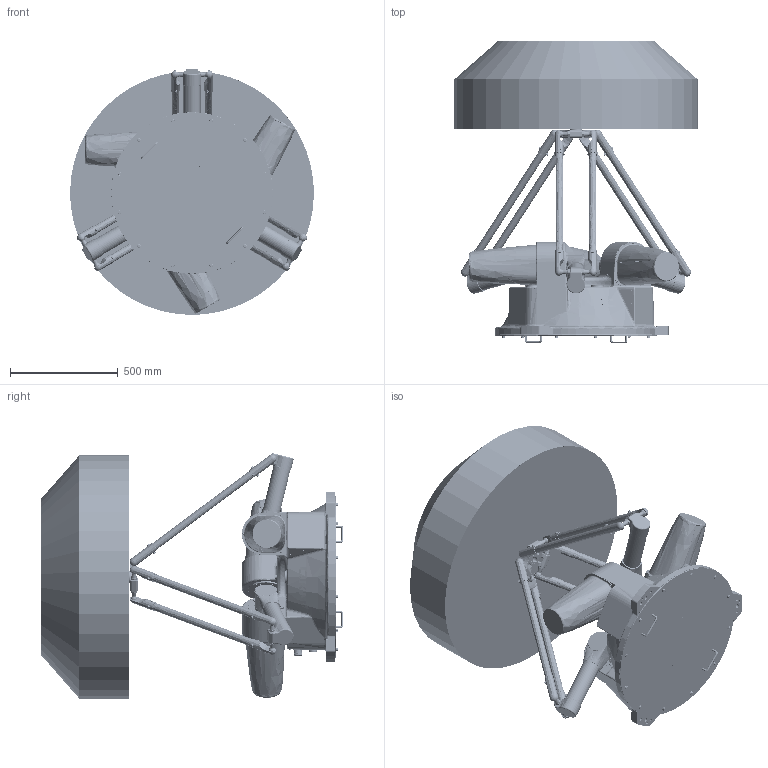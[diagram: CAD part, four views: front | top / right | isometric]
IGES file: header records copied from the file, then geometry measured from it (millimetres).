
Start section: SolidWorks IGES file using analytic representation for surfaces
Global section: file name: X:\03研发部\50-Robot\20-Delta\240-AP25X\10-Design\02-Mechanical\02-FDR 阶段资料\04-对外发布模型\AP25X-1130-1543外发模型\AP25X-1130-1543-T0-V3.0.0.IGS; native system: SolidWorks 2017; preprocessor: SolidWorks 2017; author: 1023; date: 250122.114154; units: millimetre
Bounding box: 1129.18 x 1404 x 1138.28 mm (x, y, z)
Surface area: 8223461.4 mm2 (no closed solid volume)
Topology: 0 solids, 0 shells, 5931 faces, 85365 edges, 85130 vertices
Faces by surface type: bspline 3588, revolution 2343
